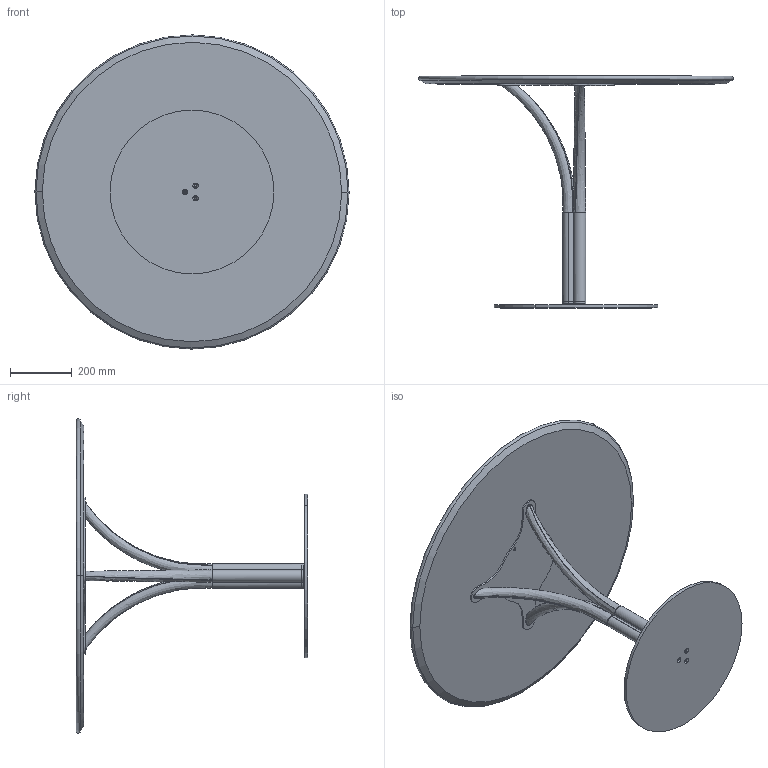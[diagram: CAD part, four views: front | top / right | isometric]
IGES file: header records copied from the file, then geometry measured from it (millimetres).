
Start section: SolidWorks IGES file using analytic representation for surfaces
Global section: file name: Y:\eforma\TECNICO\SOLIDWORKS\E-FORMA\5-TAVOLINI BISTRO\DODÒ\02 parts\DB30A.IGS; native system: SolidWorks 2022; preprocessor: SolidWorks 2022; author: eforma.tech; date: 240808.101730; units: millimetre
Bounding box: 1016.99 x 750 x 1016.78 mm (x, y, z)
Volume: 25961190.2 mm3; surface area: 4416756.6 mm2
Topology: 10 solids, 10 shells, 110 faces, 259 edges, 170 vertices
Faces by surface type: revolution 71, plane 27, bspline 12
